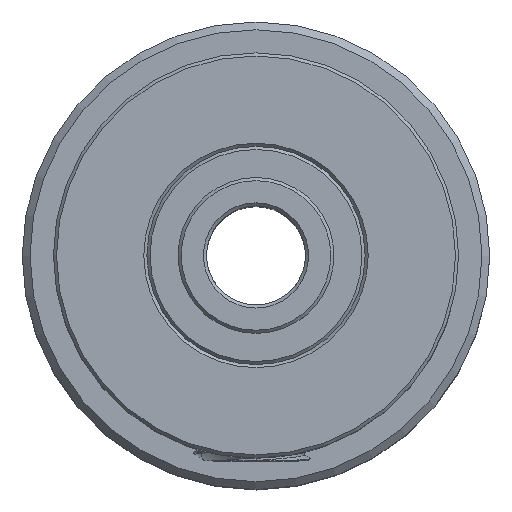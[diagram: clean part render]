
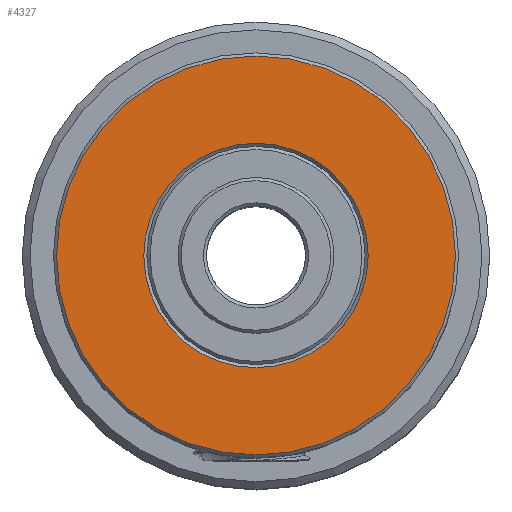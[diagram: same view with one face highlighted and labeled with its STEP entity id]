
A CAD part, top view. The second image highlights one B-rep face of the part: STEP entity #4327.
In plain terms, the highlighted planar face has unit normal (0, 0, 1).
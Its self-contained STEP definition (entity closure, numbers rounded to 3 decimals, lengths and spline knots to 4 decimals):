
#61=FACE_BOUND('',#616,.T.);
#88=PLANE('',#4867);
#365=FACE_OUTER_BOUND('',#615,.T.);
#615=EDGE_LOOP('',(#3864));
#616=EDGE_LOOP('',(#3865));
#924=CIRCLE('',#4865,3.6);
#926=CIRCLE('',#4868,6.4);
#1896=VERTEX_POINT('',#30288);
#1897=VERTEX_POINT('',#30293);
#2559=EDGE_CURVE('',#1896,#1896,#924,.T.);
#2561=EDGE_CURVE('',#1897,#1897,#926,.T.);
#3864=ORIENTED_EDGE('',*,*,#2561,.F.);
#3865=ORIENTED_EDGE('',*,*,#2559,.F.);
#4327=ADVANCED_FACE('',(#365,#61),#88,.T.);
#4865=AXIS2_PLACEMENT_3D('',#30290,#6100,#6101);
#4867=AXIS2_PLACEMENT_3D('',#30292,#6104,#6105);
#4868=AXIS2_PLACEMENT_3D('',#30294,#6106,#6107);
#6100=DIRECTION('center_axis',(0.,0.,
1.));
#6101=DIRECTION('ref_axis',(-1.,0.,0.));
#6104=DIRECTION('center_axis',(0.,0.,
1.));
#6105=DIRECTION('ref_axis',(-1.,0.,0.));
#6106=DIRECTION('center_axis',(0.,0.,
-1.));
#6107=DIRECTION('ref_axis',(-1.,0.,0.));
#30288=CARTESIAN_POINT('',(3.6,0.,14.5));
#30290=CARTESIAN_POINT('Origin',(0.,0.,
14.5));
#30292=CARTESIAN_POINT('Origin',(6.5,0.,14.5));
#30293=CARTESIAN_POINT('',(6.4,0.,14.5));
#30294=CARTESIAN_POINT('Origin',(0.,0.,
14.5));
